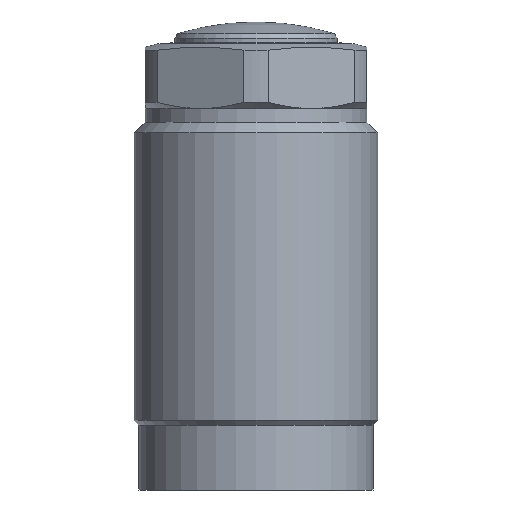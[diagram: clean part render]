
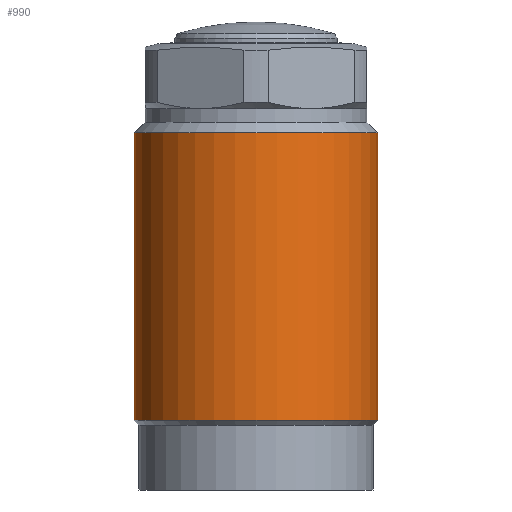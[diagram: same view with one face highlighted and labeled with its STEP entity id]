
A CAD part, front view. The second image highlights one B-rep face of the part: STEP entity #990.
In plain terms, the highlighted cylindrical face has radius 22.5 mm (diameter 45 mm), a partial arc.
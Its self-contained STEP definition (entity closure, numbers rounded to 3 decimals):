
#927=CARTESIAN_POINT('',(-22.5,0.0,-69.65));
#928=VERTEX_POINT('',#927);
#936=CARTESIAN_POINT('',(22.5,0.0,-69.65));
#937=VERTEX_POINT('',#936);
#944=CARTESIAN_POINT('',(0.0,0.0,-69.65));
#945=DIRECTION('',(0.0,0.0,1.0));
#946=DIRECTION('',(1.0,0.0,0.0));
#947=AXIS2_PLACEMENT_3D('',#944,#945,#946);
#948=CIRCLE('',#947,22.5);
#949=EDGE_CURVE('no 1451',#928,#937,#948,.T.);
#959=CARTESIAN_POINT('',(-22.5,0.0,-16.5));
#960=VERTEX_POINT('',#959);
#961=CARTESIAN_POINT('',(-22.5,0.0,-69.65));
#962=DIRECTION('',(0.0,-0.0,1.0));
#963=VECTOR('',#962,1.0);
#964=LINE('',#961,#963);
#965=EDGE_CURVE('no 1461',#928,#960,#964,.T.);
#966=ORIENTED_EDGE('',*,*,#965,.F.);
#967=ORIENTED_EDGE('',*,*,#949,.T.);
#968=CARTESIAN_POINT('',(22.5,0.0,-16.5));
#969=VERTEX_POINT('',#968);
#970=CARTESIAN_POINT('',(22.5,0.0,-69.65));
#971=DIRECTION('',(0.0,0.0,1.0));
#972=VECTOR('',#971,1.0);
#973=LINE('',#970,#972);
#974=EDGE_CURVE('no 1469',#937,#969,#973,.T.);
#975=ORIENTED_EDGE('',*,*,#974,.T.);
#976=CARTESIAN_POINT('',(0.0,0.0,-16.5));
#977=DIRECTION('',(0.0,0.0,1.0));
#978=DIRECTION('',(1.0,0.0,0.0));
#979=AXIS2_PLACEMENT_3D('',#976,#977,#978);
#980=CIRCLE('',#979,22.5);
#981=EDGE_CURVE('no 1473',#960,#969,#980,.T.);
#982=ORIENTED_EDGE('',*,*,#981,.F.);
#983=EDGE_LOOP('',(#966,#967,#975,#982));
#984=FACE_OUTER_BOUND('',#983,.T.);
#985=CARTESIAN_POINT('',(0.0,0.0,5.219));
#986=DIRECTION('',(0.0,0.0,1.0));
#987=DIRECTION('',(0.0,1.0,0.0));
#988=AXIS2_PLACEMENT_3D('',#985,#986,#987);
#989=CYLINDRICAL_SURFACE('',#988,22.5);
#990=ADVANCED_FACE('no 1454',(#984),#989,.T.);
